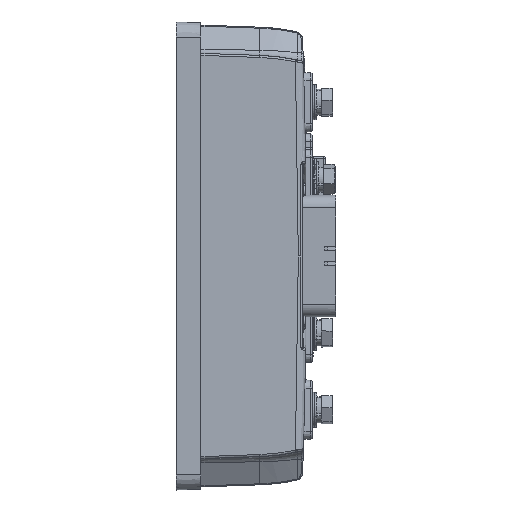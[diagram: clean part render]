
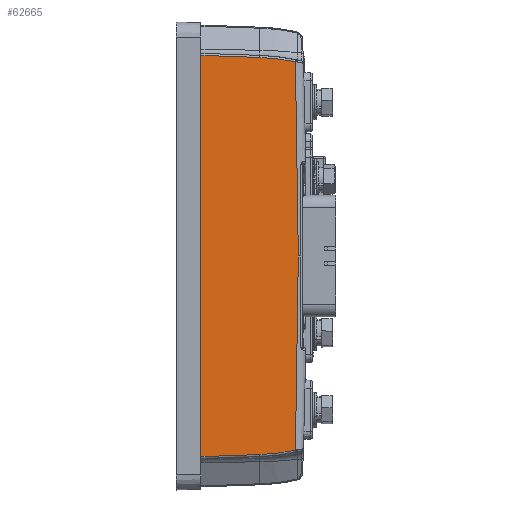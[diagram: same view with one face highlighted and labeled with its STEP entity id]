
A CAD part, left-side view. The second image highlights one B-rep face of the part: STEP entity #62665.
In plain terms, the highlighted planar face has unit normal (-0.999, -0.035, 0).
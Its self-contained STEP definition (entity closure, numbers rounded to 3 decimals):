
#10914 =( BOUNDED_CURVE ( )  B_SPLINE_CURVE ( 3, ( #10987, #10986, #10985, #10984 ),
 .UNSPECIFIED., .F., .T. ) 
 B_SPLINE_CURVE_WITH_KNOTS ( ( 4, 4 ),
 ( 6.253, 6.283 ),
 .UNSPECIFIED. ) 
 CURVE ( )  GEOMETRIC_REPRESENTATION_ITEM ( )  RATIONAL_B_SPLINE_CURVE ( ( 1., 1., 1., 1. ) ) 
 REPRESENTATION_ITEM ( '' )  );
#10915 = CARTESIAN_POINT ( 'NONE',  ( -78.096, -27.239, -93.583 ) ) ;
#10965 = CARTESIAN_POINT ( 'NONE',  ( -78.047, -28.655, 1.027 ) ) ;
#10984 = CARTESIAN_POINT ( 'NONE',  ( -78.047, -28.655, 1.027 ) ) ;
#10985 = CARTESIAN_POINT ( 'NONE',  ( -78.047, -28.655, -30.516 ) ) ;
#10986 = CARTESIAN_POINT ( 'NONE',  ( -78.063, -28.183, -62.055 ) ) ;
#10987 = CARTESIAN_POINT ( 'NONE',  ( -78.096, -27.239, -93.583 ) ) ;
#15549 = VERTEX_POINT ( 'NONE', #10965 ) ;
#15570 = EDGE_CURVE ( 'NONE', #15571, #15549, #10914, .T. ) ;
#15571 = VERTEX_POINT ( 'NONE', #10915 ) ;
#37493 = CARTESIAN_POINT ( 'NONE',  ( -78.096, -27.239, 95.636 ) ) ;
#37494 = CARTESIAN_POINT ( 'NONE',  ( -78.063, -28.183, 64.108 ) ) ;
#37495 = CARTESIAN_POINT ( 'NONE',  ( -78.047, -28.655, 32.569 ) ) ;
#37496 = CARTESIAN_POINT ( 'NONE',  ( -78.047, -28.655, 1.027 ) ) ;
#37497 =( BOUNDED_CURVE ( )  B_SPLINE_CURVE ( 3, ( #37496, #37495, #37494, #37493 ),
 .UNSPECIFIED., .F., .F. ) 
 B_SPLINE_CURVE_WITH_KNOTS ( ( 4, 4 ),
 ( 0., 0.03 ),
 .UNSPECIFIED. ) 
 CURVE ( )  GEOMETRIC_REPRESENTATION_ITEM ( )  RATIONAL_B_SPLINE_CURVE ( ( 1., 1., 1., 1. ) ) 
 REPRESENTATION_ITEM ( '' )  );
#37569 = CARTESIAN_POINT ( 'NONE',  ( -78.096, -27.239, -93.583 ) ) ;
#37570 = CARTESIAN_POINT ( 'NONE',  ( -78.295, -21.545, -94.803 ) ) ;
#37571 = CARTESIAN_POINT ( 'NONE',  ( -78.497, -15.766, -95.517 ) ) ;
#37572 = CARTESIAN_POINT ( 'NONE',  ( -78.7, -9.947, -95.721 ) ) ;
#37573 =( BOUNDED_CURVE ( )  B_SPLINE_CURVE ( 3, ( #37572, #37571, #37570, #37569 ),
 .UNSPECIFIED., .F., .T. ) 
 B_SPLINE_CURVE_WITH_KNOTS ( ( 4, 4 ),
 ( 1.606, 1.782 ),
 .UNSPECIFIED. ) 
 CURVE ( )  GEOMETRIC_REPRESENTATION_ITEM ( )  RATIONAL_B_SPLINE_CURVE ( ( 1., 0.997, 0.997, 1. ) ) 
 REPRESENTATION_ITEM ( '' )  );
#37689 = DIRECTION ( 'NONE',  ( -0.035, 0.999, 0. ) ) ;
#37690 = DIRECTION ( 'NONE',  ( -0.999, -0.035, 0. ) ) ;
#37691 = CARTESIAN_POINT ( 'NONE',  ( -79.704, 18.785, 1.027 ) ) ;
#37692 = AXIS2_PLACEMENT_3D ( 'NONE', #37691, #37690, #37689 ) ;
#37693 = PLANE ( 'NONE',  #37692 ) ;
#37694 = FACE_OUTER_BOUND ( 'NONE', #62666, .T. ) ;
#37695 = DIRECTION ( 'NONE',  ( 0.035, -0.999, 0.035 ) ) ;
#37696 = VECTOR ( 'NONE', #37695, 1000. ) ;
#37697 = CARTESIAN_POINT ( 'NONE',  ( -78.701, -9.912, -95.722 ) ) ;
#37698 = LINE ( 'NONE', #37697, #37696 ) ;
#37721 = CARTESIAN_POINT ( 'NONE',  ( -78.7, -9.947, -95.721 ) ) ;
#37735 = CARTESIAN_POINT ( 'NONE',  ( -79.585, 15.38, 98.658 ) ) ;
#37759 =( BOUNDED_CURVE ( )  B_SPLINE_CURVE ( 3, ( #37785, #37784, #37783, #37782 ),
 .UNSPECIFIED., .F., .T. ) 
 B_SPLINE_CURVE_WITH_KNOTS ( ( 4, 4 ),
 ( 1.36, 1.536 ),
 .UNSPECIFIED. ) 
 CURVE ( )  GEOMETRIC_REPRESENTATION_ITEM ( )  RATIONAL_B_SPLINE_CURVE ( ( 1., 0.997, 0.997, 1. ) ) 
 REPRESENTATION_ITEM ( '' )  );
#37760 = CARTESIAN_POINT ( 'NONE',  ( -78.7, -9.947, 97.774 ) ) ;
#37761 = CARTESIAN_POINT ( 'NONE',  ( -78.096, -27.239, 95.636 ) ) ;
#37781 = LINE ( 'NONE', #37735, #37933 ) ;
#37782 = CARTESIAN_POINT ( 'NONE',  ( -78.7, -9.947, 97.774 ) ) ;
#37783 = CARTESIAN_POINT ( 'NONE',  ( -78.497, -15.766, 97.571 ) ) ;
#37784 = CARTESIAN_POINT ( 'NONE',  ( -78.295, -21.545, 96.856 ) ) ;
#37785 = CARTESIAN_POINT ( 'NONE',  ( -78.096, -27.239, 95.636 ) ) ;
#37791 = CARTESIAN_POINT ( 'NONE',  ( -79.704, 18.785, -96.724 ) ) ;
#37927 = DIRECTION ( 'NONE',  ( 0., 0., -1. ) ) ;
#37928 = VECTOR ( 'NONE', #37927, 1000. ) ;
#37929 = CARTESIAN_POINT ( 'NONE',  ( -79.704, 18.785, 1.027 ) ) ;
#37930 = LINE ( 'NONE', #37929, #37928 ) ;
#37931 = CARTESIAN_POINT ( 'NONE',  ( -79.704, 18.785, 98.777 ) ) ;
#37932 = DIRECTION ( 'NONE',  ( -0.035, 0.999, 0.035 ) ) ;
#37933 = VECTOR ( 'NONE', #37932, 1000. ) ;
#62607 = VERTEX_POINT ( 'NONE', #37721 ) ;
#62613 = EDGE_CURVE ( 'NONE', #62607, #15571, #37573, .T. ) ;
#62664 = EDGE_CURVE ( 'NONE', #62699, #62607, #37698, .T. ) ;
#62665 = ADVANCED_FACE ( 'NONE', ( #37694 ), #37693, .T. ) ;
#62666 = EDGE_LOOP ( 'NONE', ( #62667, #62668, #62671, #62674, #62677, #62679, #62680 ) ) ;
#62667 = ORIENTED_EDGE ( 'NONE', *, *, #15570, .T. ) ;
#62668 = ORIENTED_EDGE ( 'NONE', *, *, #62669, .T. ) ;
#62669 = EDGE_CURVE ( 'NONE', #15549, #62670, #37497, .T. ) ;
#62670 = VERTEX_POINT ( 'NONE', #37761 ) ;
#62671 = ORIENTED_EDGE ( 'NONE', *, *, #62672, .T. ) ;
#62672 = EDGE_CURVE ( 'NONE', #62670, #62673, #37759, .T. ) ;
#62673 = VERTEX_POINT ( 'NONE', #37760 ) ;
#62674 = ORIENTED_EDGE ( 'NONE', *, *, #62675, .T. ) ;
#62675 = EDGE_CURVE ( 'NONE', #62673, #62676, #37781, .T. ) ;
#62676 = VERTEX_POINT ( 'NONE', #37931 ) ;
#62677 = ORIENTED_EDGE ( 'NONE', *, *, #62678, .T. ) ;
#62678 = EDGE_CURVE ( 'NONE', #62676, #62699, #37930, .T. ) ;
#62679 = ORIENTED_EDGE ( 'NONE', *, *, #62664, .T. ) ;
#62680 = ORIENTED_EDGE ( 'NONE', *, *, #62613, .T. ) ;
#62699 = VERTEX_POINT ( 'NONE', #37791 ) ;
